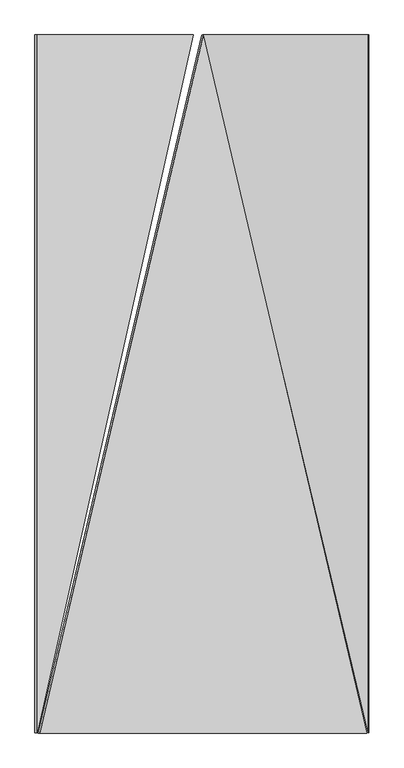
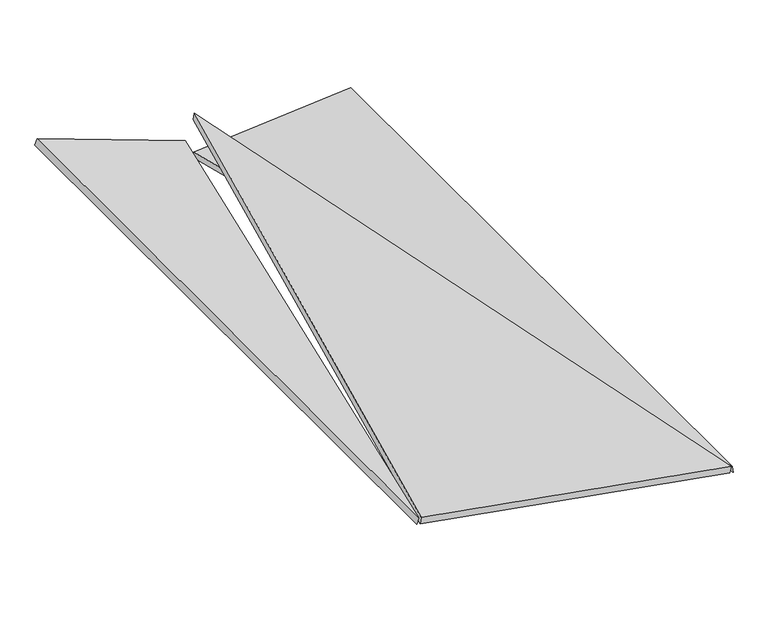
"""IFC4 building model written with IfcOpenShell, lengths in millimetres: proxy geometry, panel sufitowy 6 : panel sufitowy 6."""

from ifc_helpers import new_model, si_unit, frame, origin, place, context, project, spatial, polyline, outline, extrude, source, transform, mapped, element, save


def generic_models_10ad3b08(model_context):
    return source(origin(), model_context, "Body", "SweptSolid", [
        extrude(outline(polyline([(-900.9098917, 0.0), (1006.1909889, 962.7191946), (1235.4098448, 0.0), (-900.9098917, 0.0)])), frame((539.7571517, 1457.4151922, 1089.1805158), z_axis=(0.1736481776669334, 0.0, 0.9848077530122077), x_axis=(-0.2281016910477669, -0.9728062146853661, 0.040220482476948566)), (0.0, 0.0, 1.0), 20.0),
        extrude(outline(polyline([(-127.5, 0.0), (-127.5, -2079.0), (-622.4999999, 0.0), (-127.5, 0.0)])), frame((1369.323668, 2335.0, 976.4140543), z_axis=(-0.08715574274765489, 0.0, 0.9961946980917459), x_axis=(0.9961946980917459, 0.0, 0.08715574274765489)), (0.0, 0.0, 1.0), 20.0),
        extrude(outline(polyline([(-127.5000001, 0.0), (-622.5000001, 0.0), (-127.5000001, 2079.0), (-127.5000001, 0.0)])), frame((127.8422043, 2335.0, 1184.2939248), z_axis=(0.3420201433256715, 0.0, 0.9396926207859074), x_axis=(-0.9396926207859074, 0.0, 0.3420201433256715)), (0.0, 0.0, 1.0), 20.0),
    ])


if __name__ == "__main__":
    model = new_model("IFC4")
    model_context = context("Model", 3, world=origin())
    ifc_project = project(units=[si_unit("LENGTHUNIT", "METRE", prefix="MILLI")], contexts=[model_context])
    site = spatial("IfcSite", under=ifc_project)
    building = spatial("IfcBuilding", under=site)
    placement = place(None, origin())
    generic_models_shape = generic_models_10ad3b08(model_context)
    element("IfcBuildingElementProxy", 1, Name="panel sufitowy 6 : panel sufitowy 6", ObjectType="panel sufitowy 6 : panel sufitowy 6", at=placement, inside=building, context=model_context, shape_type="MappedRepresentation", body=[
        mapped(generic_models_shape, transform((0.0, 0.0, 0.0), x_axis=(1.0, 0.0, 0.0), y_axis=(0.0, 1.0, 0.0), z_axis=(0.0, 0.0, 1.0))),
    ])
    save(model, "model.ifc")
